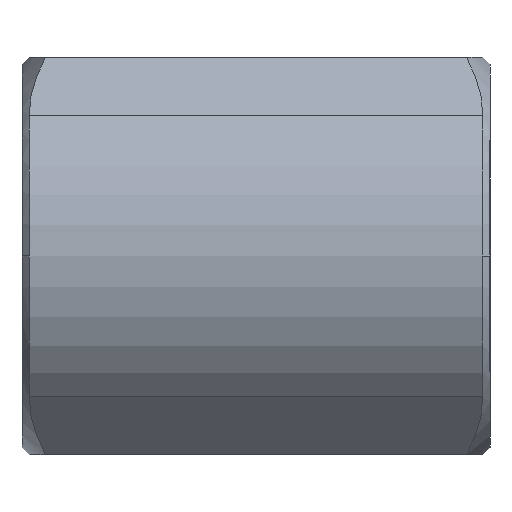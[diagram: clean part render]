
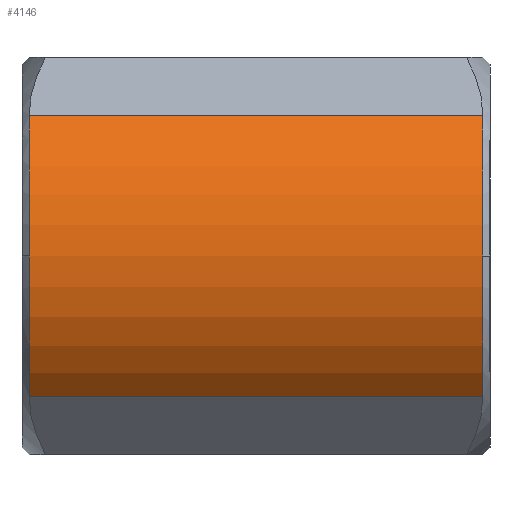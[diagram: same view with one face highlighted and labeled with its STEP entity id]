
A CAD part, left-side view. The second image highlights one B-rep face of the part: STEP entity #4146.
In plain terms, the highlighted cylindrical face has radius 7 mm (diameter 14 mm), a partial arc.
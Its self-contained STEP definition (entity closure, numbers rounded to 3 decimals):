
#15 = DIRECTION ( 'NONE',  ( -1., 0., 0. ) ) ;
#176 = DIRECTION ( 'NONE',  ( 0., 1., 0. ) ) ;
#204 = EDGE_CURVE ( 'Defeature completata1_135+Defeature completata1_130+Defeature completata1_128+Defeature completata1_129', #659, #7863, #647, .T. ) ;
#647 = CIRCLE ( 'NONE', #5301, 7. ) ;
#659 = VERTEX_POINT ( 'NONE', #1870 ) ;
#665 = AXIS2_PLACEMENT_3D ( 'NONE', #7183, #2275, #8012 ) ;
#786 = CARTESIAN_POINT ( 'NONE',  ( -4.95, 16.5, 4.95 ) ) ;
#903 = VECTOR ( 'NONE', #7336, 1000. ) ;
#1131 = FACE_OUTER_BOUND ( 'NONE', #7837, .T. ) ;
#1562 = AXIS2_PLACEMENT_3D ( 'NONE', #1717, #7445, #2524 ) ;
#1717 = CARTESIAN_POINT ( 'NONE',  ( 0., 0.25, 0. ) ) ;
#1870 = CARTESIAN_POINT ( 'NONE',  ( -7., 16.25, 0. ) ) ;
#1873 = VERTEX_POINT ( 'NONE', #3214 ) ;
#1932 = VERTEX_POINT ( 'NONE', #7349 ) ;
#2051 = VERTEX_POINT ( 'NONE', #5144 ) ;
#2256 = EDGE_CURVE ( 'Defeature completata1_129+Defeature completata1_130+Defeature completata1_135+Defeature completata1_133', #7863, #1873, #3315, .T. ) ;
#2275 = DIRECTION ( 'NONE',  ( 0., 1., 0. ) ) ;
#2437 = AXIS2_PLACEMENT_3D ( 'NONE', #9810, #4925, #15 ) ;
#2524 = DIRECTION ( 'NONE',  ( -1., 0., 0. ) ) ;
#2536 = DIRECTION ( 'NONE',  ( 0., 0., -1. ) ) ;
#2817 = VERTEX_POINT ( 'NONE', #7155 ) ;
#3173 = CIRCLE ( 'NONE', #665, 7. ) ;
#3214 = CARTESIAN_POINT ( 'NONE',  ( -4.95, 0.25, 4.95 ) ) ;
#3315 = LINE ( 'NONE', #786, #903 ) ;
#3701 = EDGE_CURVE ( 'Defeature completata1_135+Defeature completata1_130+Defeature completata1_128+Defeature completata1_129', #2051, #659, #3173, .T. ) ;
#3817 = DIRECTION ( 'NONE',  ( 0., -1., 0. ) ) ;
#4146 = ADVANCED_FACE ( 'Defeature completata1_130', ( #1131 ), #5221, .T. ) ;
#4607 = EDGE_CURVE ( 'Defeature completata1_133+Defeature completata1_130+Defeature completata1_129+Defeature completata1_128', #2817, #1932, #5709, .T. ) ;
#4767 = ORIENTED_EDGE ( 'NONE', *, *, #4607, .F. ) ;
#4925 = DIRECTION ( 'NONE',  ( 0., -1., 0. ) ) ;
#5067 = CARTESIAN_POINT ( 'NONE',  ( 0., 16.25, 0. ) ) ;
#5144 = CARTESIAN_POINT ( 'NONE',  ( -4.95, 16.25, -4.95 ) ) ;
#5221 = CYLINDRICAL_SURFACE ( 'NONE', #7254, 7. ) ;
#5301 = AXIS2_PLACEMENT_3D ( 'NONE', #5067, #176, #5871 ) ;
#5610 = EDGE_CURVE ( 'Defeature completata1_133+Defeature completata1_130+Defeature completata1_129+Defeature completata1_128', #1873, #2817, #5700, .T. ) ;
#5700 = CIRCLE ( 'NONE', #2437, 7. ) ;
#5709 = CIRCLE ( 'NONE', #1562, 7. ) ;
#5871 = DIRECTION ( 'NONE',  ( 1., 0., 0. ) ) ;
#5898 = ORIENTED_EDGE ( 'NONE', *, *, #204, .F. ) ;
#6323 = LINE ( 'NONE', #9499, #8526 ) ;
#6815 = EDGE_CURVE ( 'Defeature completata1_130+Defeature completata1_128+Defeature completata1_135+Defeature completata1_133', #2051, #1932, #6323, .T. ) ;
#7155 = CARTESIAN_POINT ( 'NONE',  ( -7., 0.25, 0. ) ) ;
#7164 = CARTESIAN_POINT ( 'NONE',  ( -4.95, 16.25, 4.95 ) ) ;
#7183 = CARTESIAN_POINT ( 'NONE',  ( 0., 16.25, 0. ) ) ;
#7254 = AXIS2_PLACEMENT_3D ( 'NONE', #9070, #8287, #2536 ) ;
#7336 = DIRECTION ( 'NONE',  ( 0., -1., 0. ) ) ;
#7349 = CARTESIAN_POINT ( 'NONE',  ( -4.95, 0.25, -4.95 ) ) ;
#7445 = DIRECTION ( 'NONE',  ( 0., -1., 0. ) ) ;
#7837 = EDGE_LOOP ( 'NONE', ( #7911, #10012, #5898, #8420, #8873, #4767 ) ) ;
#7863 = VERTEX_POINT ( 'NONE', #7164 ) ;
#7911 = ORIENTED_EDGE ( 'NONE', *, *, #5610, .F. ) ;
#8012 = DIRECTION ( 'NONE',  ( 1., 0., 0. ) ) ;
#8287 = DIRECTION ( 'NONE',  ( 0., -1., 0. ) ) ;
#8420 = ORIENTED_EDGE ( 'NONE', *, *, #3701, .F. ) ;
#8526 = VECTOR ( 'NONE', #3817, 1000. ) ;
#8873 = ORIENTED_EDGE ( 'NONE', *, *, #6815, .T. ) ;
#9070 = CARTESIAN_POINT ( 'NONE',  ( 0., 16.5, 0. ) ) ;
#9499 = CARTESIAN_POINT ( 'NONE',  ( -4.95, 16.5, -4.95 ) ) ;
#9810 = CARTESIAN_POINT ( 'NONE',  ( 0., 0.25, 0. ) ) ;
#10012 = ORIENTED_EDGE ( 'NONE', *, *, #2256, .F. ) ;
